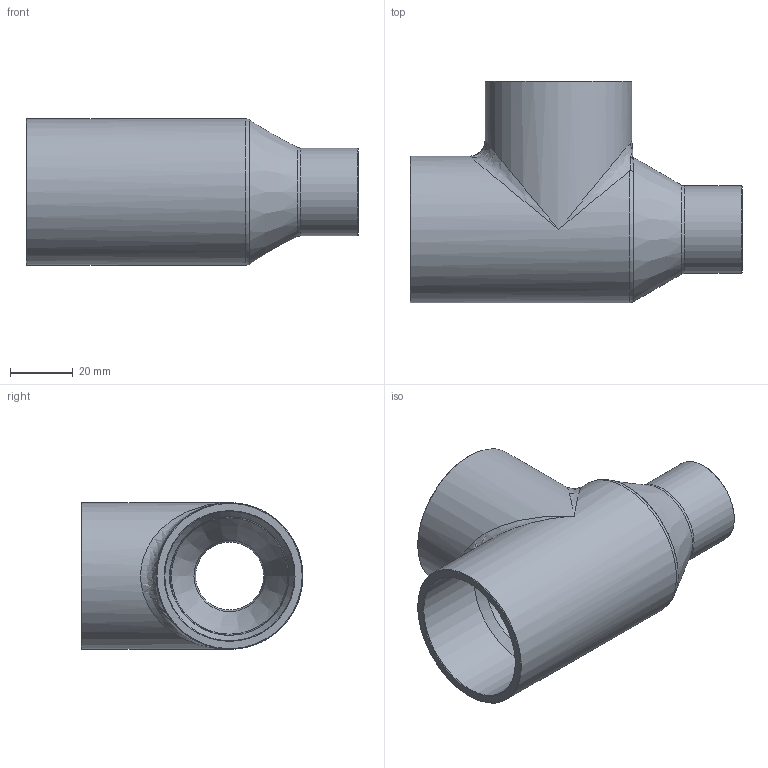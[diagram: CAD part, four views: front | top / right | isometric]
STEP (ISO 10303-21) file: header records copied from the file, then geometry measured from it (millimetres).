
FILE_DESCRIPTION((''),'2;1');
FILE_NAME('G:\SANHA-Ternat\Technik\Management\Bouwmaten + markeringen\z-maattekeningen 3D\29000s\2913015815878_3d.stp','2017-08-03T13:04:12',('vdvijverd'),(''),'Autodesk Inventor 2009','Autodesk Inventor 2009','');
FILE_SCHEMA(('AUTOMOTIVE_DESIGN { 1 0 10303 214 1 1 1 1 }'));
Length unit declared in the file: millimetre
Products named in the file (1): 2913015815878_3d
Bounding box: 106.2 x 70.95 x 46.9 mm (x, y, z)
Volume: 53840.8 mm3; surface area: 32643.8 mm2
Topology: 1 solids, 1 shells, 36 faces, 91 edges, 48 vertices
Faces by surface type: bspline 10, cone 10, cylinder 9, plane 4, torus 3
Full cylindrical faces by diameter (mm): 22.375 x1, 27.975 x1, 38 x1, 41.455 x2, 46.9 x2
Entity records: 2106 total; most frequent: CARTESIAN_POINT 1420, DIRECTION 142, ORIENTED_EDGE 106, AXIS2_PLACEMENT_3D 71, EDGE_LOOP 61, EDGE_CURVE 53, VERTEX_POINT 40, FACE_OUTER_BOUND 36
